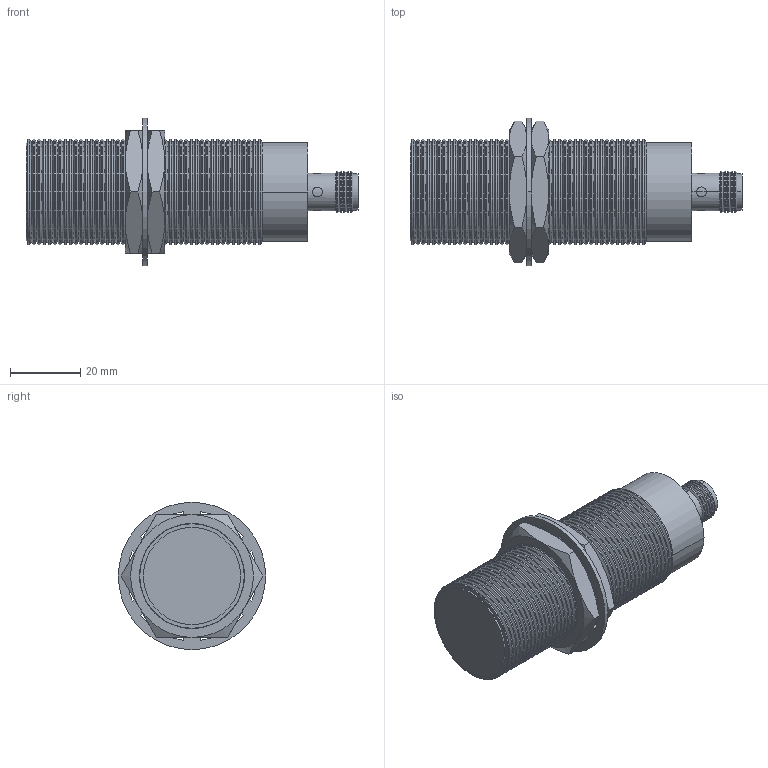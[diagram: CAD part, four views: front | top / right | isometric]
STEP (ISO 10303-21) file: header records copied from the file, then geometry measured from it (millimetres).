
FILE_DESCRIPTION (( 'STEP AP203' ), '1' );
FILE_NAME ('90-29417-062.STEP', '2015-11-15T19:20:33', ( 'Sam' ), ( 'Spade' ), 'SwSTEP 2.0', 'SolidWorks 2002296', '' );
FILE_SCHEMA (( 'CONFIG_CONTROL_DESIGN' ));
Length unit declared in the file: inch
Products named in the file (12): 90-29417-062; Imported77; Imported76; Imported75; Imported74; Imported81; Imported80; Imported79; Imported78; Imported84; Imported83; Imported82
Assembly tree (11 placements, depth 2):
  90-29417-062
    Imported82
    Imported83
    Imported75
    Imported77
    Imported74
    Imported84
    Imported79
    Imported80
    Imported78
    Imported76
    Imported81
Bounding box: 94.79 x 42.06 x 42.06 mm (x, y, z)
Volume: 58933.2 mm3; surface area: 21505 mm2
Topology: 11 solids, 11 shells, 506 faces, 1203 edges, 713 vertices
Faces by surface type: cone 252, cylinder 173, plane 75, bspline 6
Entity records: 16405 total; most frequent: CARTESIAN_POINT 3136, DIRECTION 2757, ORIENTED_EDGE 2394, EDGE_CURVE 1197, AXIS2_PLACEMENT_3D 1110, VERTEX_POINT 713, CIRCLE 596, LINE 537
